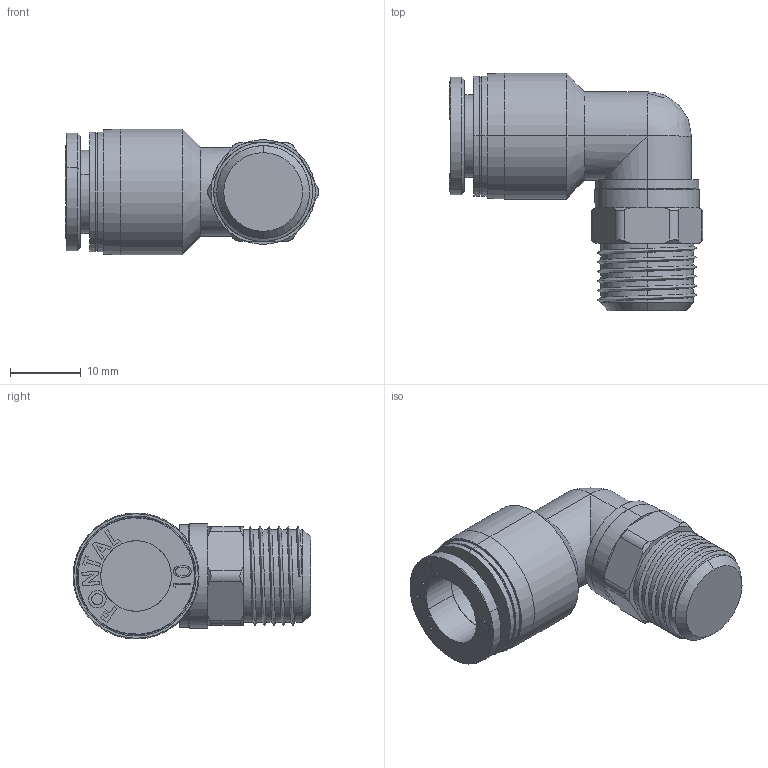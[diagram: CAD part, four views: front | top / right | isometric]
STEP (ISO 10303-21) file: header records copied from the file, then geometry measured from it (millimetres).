
FILE_DESCRIPTION (( 'STEP AP203' ), '1' );
FILE_NAME ('FPL10-02.STEP', '2016-01-14T21:03:06', ( '' ), ( '' ), 'SwSTEP 2.0', 'SolidWorks 2014', '' );
FILE_SCHEMA (( 'CONFIG_CONTROL_DESIGN' ));
Length unit declared in the file: millimetre
Products named in the file (4): FPL10-02; FPL10-02-A; FPC10-02-A; FPL10-02-B
Assembly tree (3 placements, depth 2):
  FPL10-02
    FPL10-02-A
    FPL10-02-B
    FPC10-02-A
Bounding box: 35.86 x 33.7 x 17.85 mm (x, y, z)
Volume: 7014.3 mm3; surface area: 4490 mm2
Topology: 3 solids, 3 shells, 181 faces, 441 edges, 282 vertices
Faces by surface type: plane 90, cylinder 45, cone 22, bspline 20, torus 4
Entity records: 9367 total; most frequent: CARTESIAN_POINT 4925, ORIENTED_EDGE 878, DIRECTION 758, EDGE_CURVE 439, VERTEX_POINT 282, AXIS2_PLACEMENT_3D 255, LINE 248, VECTOR 248
